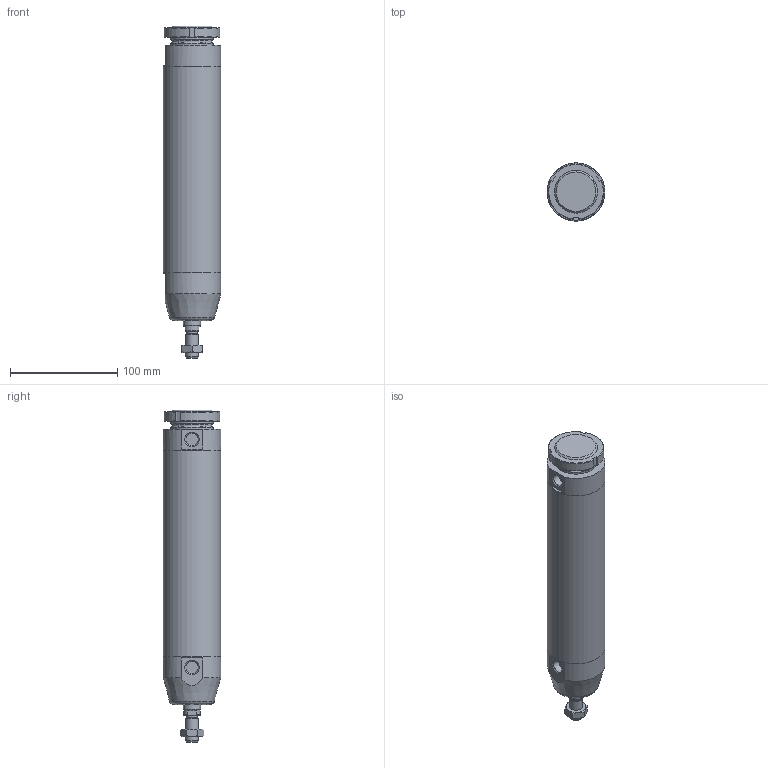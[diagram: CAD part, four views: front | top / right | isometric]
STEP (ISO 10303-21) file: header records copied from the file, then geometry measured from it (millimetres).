
FILE_DESCRIPTION(/* description */ (''),/* implementation_level */ '2;1');
FILE_NAME(/* name */ 'I:\Area Tecnica\Documenti\A-Manieri\_Inventor\12X\12X#B_###_####_#_#\12XAB_050_0150_#_#.stp',/* time_stamp */ '2015-04-27T16:25:26+02:00',/* author */ ('maniean1'),/* organization */ ('Pneumax S.p.A.'),/* preprocessor_version */ 'ST-DEVELOPER v15.2',/* originating_system */ 'Autodesk Inventor 2014',/* authorisation */ '');
FILE_SCHEMA (('AUTOMOTIVE_DESIGN { 1 0 10303 214 3 1 1 }'));
Length unit declared in the file: millimetre
Products named in the file (7): C1250_619-0150; 12X50_613; S12X50_0150; 12X_50_11; 12X50_620; G12X_050_05; 12XAB_050_0150_#_#
Bounding box: 54 x 54 x 310 mm (x, y, z)
Volume: 346006 mm3; surface area: 113614.1 mm2
Topology: 6 solids, 6 shells, 80 faces, 175 edges, 112 vertices
Faces by surface type: plane 40, cylinder 20, cone 19, torus 1
Full cylindrical faces by diameter (mm): 10.2 x1, 11.4 x2, 12 x2, 14 x1, 15.6 x1, 16 x1, 38.2 x1, 40 x3, 50 x2, 54 x3
Entity records: 2134 total; most frequent: CARTESIAN_POINT 399, DIRECTION 359, ORIENTED_EDGE 282, AXIS2_PLACEMENT_3D 154, EDGE_CURVE 141, EDGE_LOOP 122, VERTEX_POINT 107, ADVANCED_FACE 80
